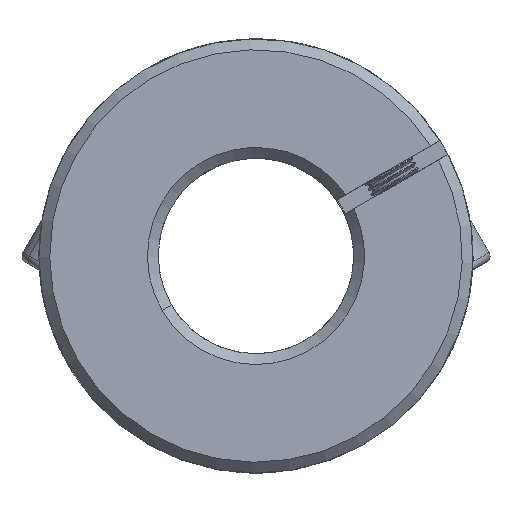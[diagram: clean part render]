
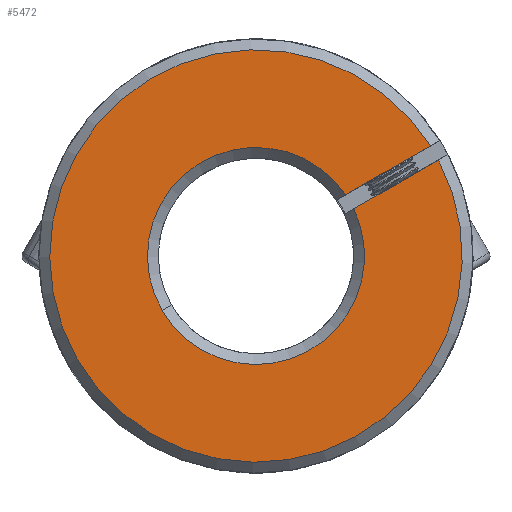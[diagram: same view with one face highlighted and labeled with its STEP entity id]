
A CAD part, front view. The second image highlights one B-rep face of the part: STEP entity #5472.
In plain terms, the highlighted planar face has unit normal (0, -1, 0).
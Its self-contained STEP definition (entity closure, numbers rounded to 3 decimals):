
#95 = FACE_OUTER_BOUND ( 'NONE', #13047, .T. ) ;
#122 = CARTESIAN_POINT ( 'NONE',  ( -1.447, -31.239, 40. ) ) ;
#253 = AXIS2_PLACEMENT_3D ( 'NONE', #11545, #5093, #9422 ) ;
#1127 = CARTESIAN_POINT ( 'NONE',  ( -10.106, -31.239, 34.997 ) ) ;
#1151 = LINE ( 'NONE', #2646, #10440 ) ;
#1658 = CIRCLE ( 'NONE', #5498, 19. ) ;
#2646 = CARTESIAN_POINT ( 'NONE',  ( 6.694, -31.239, 43.837 ) ) ;
#2732 = PLANE ( 'NONE',  #4405 ) ;
#2741 = ORIENTED_EDGE ( 'NONE', *, *, #4061, .T. ) ;
#3089 = CARTESIAN_POINT ( 'NONE',  ( 14.616, -31.239, 50.147 ) ) ;
#3140 = CIRCLE ( 'NONE', #253, 10. ) ;
#3666 = VERTEX_POINT ( 'NONE', #3089 ) ;
#3687 = ORIENTED_EDGE ( 'NONE', *, *, #3795, .T. ) ;
#3712 = ORIENTED_EDGE ( 'NONE', *, *, #13414, .F. ) ;
#3795 = EDGE_CURVE ( 'NONE', #6244, #9565, #12444, .T. ) ;
#4061 = EDGE_CURVE ( 'NONE', #3666, #7679, #1658, .T. ) ;
#4390 = ORIENTED_EDGE ( 'NONE', *, *, #11790, .F. ) ;
#4405 = AXIS2_PLACEMENT_3D ( 'NONE', #12297, #7045, #4867 ) ;
#4867 = DIRECTION ( 'NONE',  ( 0.5, 0., -0.866 ) ) ;
#5093 = DIRECTION ( 'NONE',  ( 0., 1., 0. ) ) ;
#5472 = ADVANCED_FACE ( 'NONE', ( #95 ), #2732, .F. ) ;
#5498 = AXIS2_PLACEMENT_3D ( 'NONE', #122, #10781, #11869 ) ;
#5606 = EDGE_CURVE ( 'NONE', #9992, #6244, #3140, .T. ) ;
#5808 = DIRECTION ( 'NONE',  ( 0., 1., 0. ) ) ;
#5916 = CARTESIAN_POINT ( 'NONE',  ( 7.562, -31.239, 44.339 ) ) ;
#6244 = VERTEX_POINT ( 'NONE', #1127 ) ;
#7045 = DIRECTION ( 'NONE',  ( 0., 1., 0. ) ) ;
#7196 = LINE ( 'NONE', #12441, #12912 ) ;
#7679 = VERTEX_POINT ( 'NONE', #13369 ) ;
#9337 = DIRECTION ( 'NONE',  ( -0.866, 0., -0.5 ) ) ;
#9422 = DIRECTION ( 'NONE',  ( 0.5, 0., -0.866 ) ) ;
#9565 = VERTEX_POINT ( 'NONE', #9743 ) ;
#9743 = CARTESIAN_POINT ( 'NONE',  ( 6.812, -31.239, 45.638 ) ) ;
#9992 = VERTEX_POINT ( 'NONE', #5916 ) ;
#10440 = VECTOR ( 'NONE', #12253, 1000. ) ;
#10497 = ORIENTED_EDGE ( 'NONE', *, *, #5606, .T. ) ;
#10781 = DIRECTION ( 'NONE',  ( 0., -1., 0. ) ) ;
#11545 = CARTESIAN_POINT ( 'NONE',  ( -1.447, -31.239, 40. ) ) ;
#11790 = EDGE_CURVE ( 'NONE', #9992, #7679, #1151, .T. ) ;
#11869 = DIRECTION ( 'NONE',  ( 0.5, 0., -0.866 ) ) ;
#12253 = DIRECTION ( 'NONE',  ( 0.866, 0., 0.5 ) ) ;
#12286 = DIRECTION ( 'NONE',  ( 0.5, 0., -0.866 ) ) ;
#12297 = CARTESIAN_POINT ( 'NONE',  ( 52.98, -31.239, 45.743 ) ) ;
#12441 = CARTESIAN_POINT ( 'NONE',  ( 5.943, -31.239, 45.136 ) ) ;
#12444 = CIRCLE ( 'NONE', #13777, 10. ) ;
#12912 = VECTOR ( 'NONE', #9337, 1000. ) ;
#13047 = EDGE_LOOP ( 'NONE', ( #4390, #10497, #3687, #3712, #2741 ) ) ;
#13369 = CARTESIAN_POINT ( 'NONE',  ( 15.367, -31.239, 48.848 ) ) ;
#13414 = EDGE_CURVE ( 'NONE', #3666, #9565, #7196, .T. ) ;
#13422 = CARTESIAN_POINT ( 'NONE',  ( -1.447, -31.239, 40. ) ) ;
#13777 = AXIS2_PLACEMENT_3D ( 'NONE', #13422, #5808, #12286 ) ;
